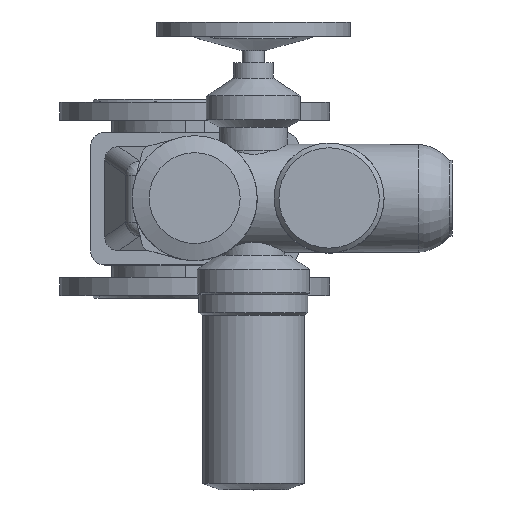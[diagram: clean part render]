
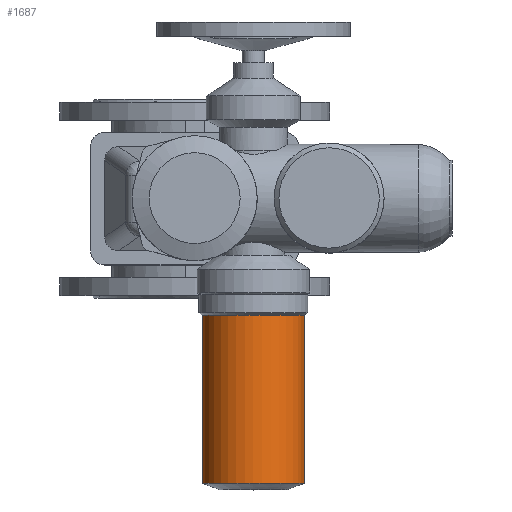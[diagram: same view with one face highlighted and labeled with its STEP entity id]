
A CAD part, top view. The second image highlights one B-rep face of the part: STEP entity #1687.
In plain terms, the highlighted cylindrical face has radius 54 mm (diameter 108 mm), a full revolution.
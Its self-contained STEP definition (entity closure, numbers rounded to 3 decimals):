
#1687=ADVANCED_FACE('',(#4009,#4011),#4013,.T.);
#4009=FACE_OUTER_BOUND('',#4010,.T.);
#4010=EDGE_LOOP('',(#5048));
#4011=FACE_OUTER_BOUND('',#4012,.T.);
#4012=EDGE_LOOP('',(#5049));
#4013=CYLINDRICAL_SURFACE('',#4014,54.);
#4014=AXIS2_PLACEMENT_3D('',#4015,#4016,#4017);
#4015=CARTESIAN_POINT('',(62.,-301.085,439.));
#4016=DIRECTION('',(0.,1.,0.));
#4017=DIRECTION('',(0.,0.,1.));
#5048=ORIENTED_EDGE('',*,*,#5597,.F.);
#5049=ORIENTED_EDGE('',*,*,#5599,.T.);
#5597=EDGE_CURVE('',#6404,#6404,#6405,.T.);
#5599=EDGE_CURVE('',#6408,#6408,#6409,.T.);
#6404=VERTEX_POINT('',#10485);
#6405=CIRCLE('',#10486,54.);
#6408=VERTEX_POINT('',#10495);
#6409=CIRCLE('',#10496,54.);
#10485=CARTESIAN_POINT('',(62.,-123.505,493.));
#10486=AXIS2_PLACEMENT_3D('',#10487,#10488,#10489);
#10487=CARTESIAN_POINT('',(62.,-123.505,439.));
#10488=DIRECTION('',(0.,1.,0.));
#10489=DIRECTION('',(0.,0.,1.));
#10495=CARTESIAN_POINT('',(62.,-301.085,493.));
#10496=AXIS2_PLACEMENT_3D('',#10497,#10498,#10499);
#10497=CARTESIAN_POINT('',(62.,-301.085,439.));
#10498=DIRECTION('',(0.,1.,0.));
#10499=DIRECTION('',(0.,0.,1.));
